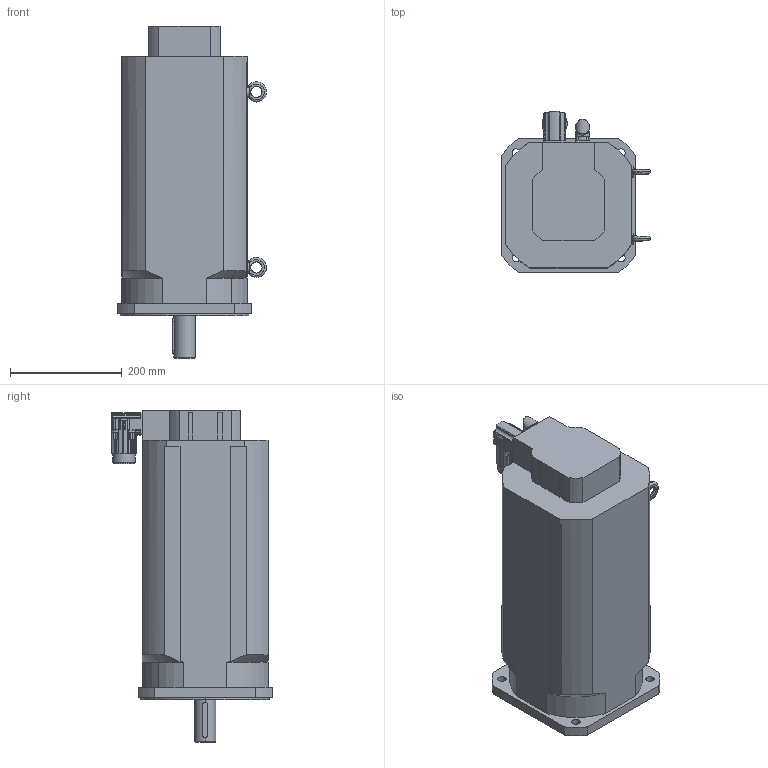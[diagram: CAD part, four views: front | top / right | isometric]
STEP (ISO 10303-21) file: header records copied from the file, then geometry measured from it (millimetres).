
FILE_DESCRIPTION(('STEP AP203'),'2;1');
FILE_NAME('MT8-1150.stp','2006-08-28T20:31:27',(''),(''),'2005.2.102','THINKDESIGN','');
FILE_SCHEMA(('CONFIG_CONTROL_DESIGN'));
Length unit declared in the file: millimetre
Bounding box: 266.5 x 287.18 x 594 mm (x, y, z)
Volume: 23067744.5 mm3; surface area: 582538.2 mm2
Topology: 5 solids, 5 shells, 540 faces, 1452 edges, 933 vertices
Faces by surface type: cylinder 257, plane 192, bspline 91
Full cylindrical faces by diameter (mm): 23 x1, 37.8 x1, 40 x1
Entity records: 19457 total; most frequent: CARTESIAN_POINT 6040, ORIENTED_EDGE 2892, DIRECTION 2772, EDGE_CURVE 1446, AXIS2_PLACEMENT_3D 1051, VERTEX_POINT 933, VECTOR 670, LINE 670
